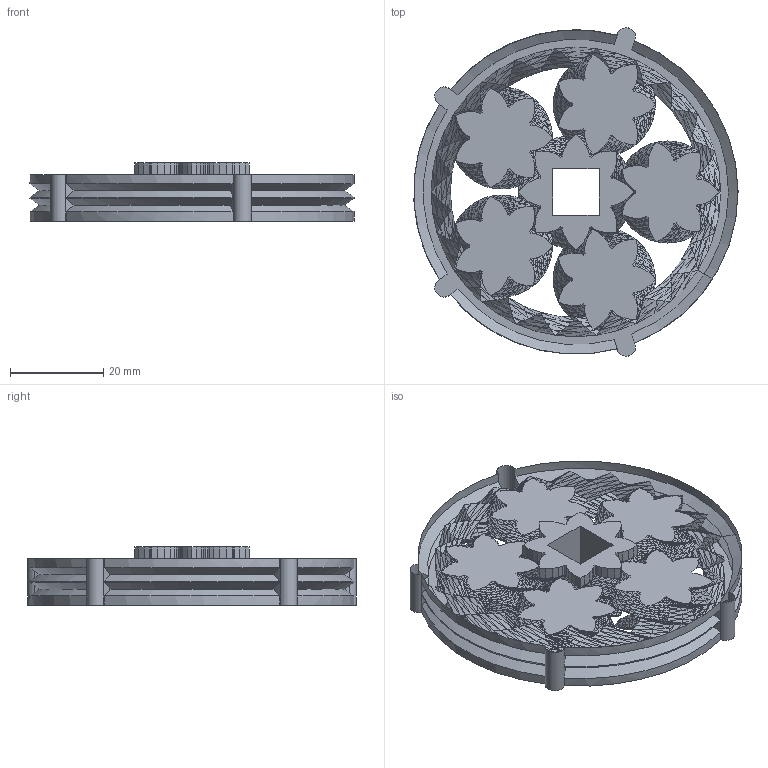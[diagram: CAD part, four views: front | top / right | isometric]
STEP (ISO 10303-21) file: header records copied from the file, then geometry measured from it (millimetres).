
FILE_DESCRIPTION(/* description */ (''),/* implementation_level */ '2;1');
FILE_NAME(/* name */ 'D:/Dokumenty/3D/Luke''s 3D/Projects/Spool winder v3/STEP/Bearing.step',/* time_stamp */ '2021-11-14T12:55:57+01:00',/* author */ (''),/* organization */ (''),/* preprocessor_version */ 'ST-DEVELOPER v18.1',/* originating_system */ 'Autodesk Translation Framework v10.10.0.1391',/* authorisation */ '');
FILE_SCHEMA (('AUTOMOTIVE_DESIGN { 1 0 10303 214 3 1 1 }'));
Length unit declared in the file: millimetre
Products named in the file (2): bearing; Bearing_1
Assembly tree (1 placements, depth 2):
  bearing
    Bearing_1
Bounding box: 69.62 x 70.57 x 12.51 mm (x, y, z)
Volume: 26484 mm3; surface area: 20909.6 mm2
Topology: 7 solids, 7 shells, 17141 faces, 26702 edges, 9571 vertices
Faces by surface type: plane 17109, cylinder 16, cone 16
Entity records: 343432 total; most frequent: DIRECTION 60987, CARTESIAN_POINT 53637, ORIENTED_EDGE 53414, EDGE_CURVE 26707, LINE 26619, VECTOR 26619, AXIS2_PLACEMENT_3D 17184, EDGE_LOOP 17145
